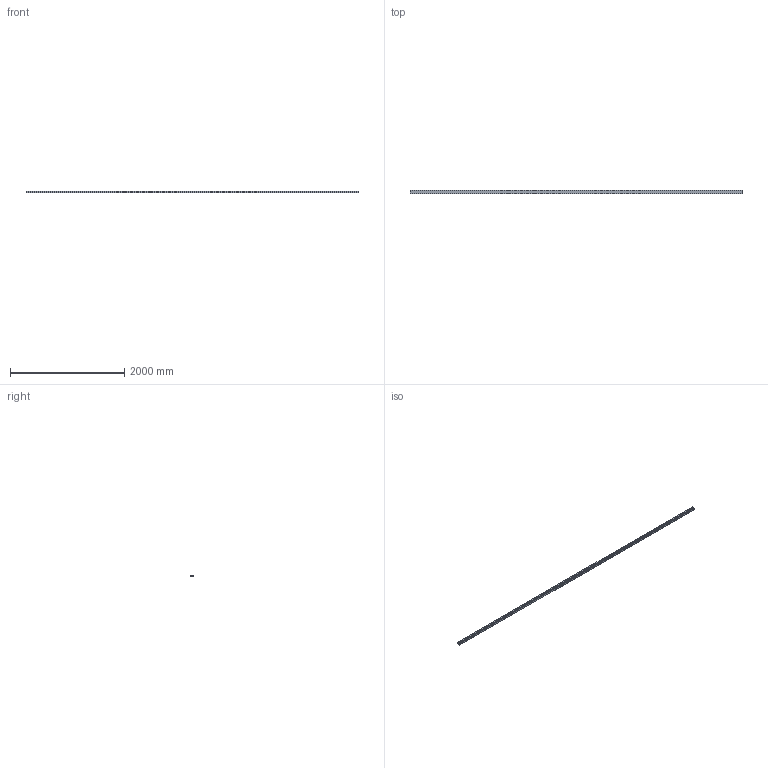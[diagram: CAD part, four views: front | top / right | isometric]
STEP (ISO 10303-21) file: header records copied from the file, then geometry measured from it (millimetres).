
FILE_DESCRIPTION(('STEP AP242'),'1');
FILE_NAME('OPO_65.081.34.stp','2026-01-30T20:50:16',(' '),(' '),'Spatial InterOp 3D',' ',' ');
FILE_SCHEMA(('AP242_MANAGED_MODEL_BASED_3D_ENGINEERING_MIM_LF {1 0 10303 442 1 1 4}'));
Length unit declared in the file: millimetre
Products named in the file (1): 1
Bounding box: 5800 x 53 x 33 mm (x, y, z)
Volume: 2586437.6 mm3; surface area: 2131874.2 mm2
Topology: 1 solids, 1 shells, 88 faces, 244 edges, 162 vertices
Faces by surface type: plane 68, cylinder 20
Entity records: 3516 total; most frequent: CARTESIAN_POINT 495, ORIENTED_EDGE 488, DIRECTION 462, EDGE_CURVE 244, LINE 204, VECTOR 204, VERTEX_POINT 162, AXIS2_PLACEMENT_3D 129
